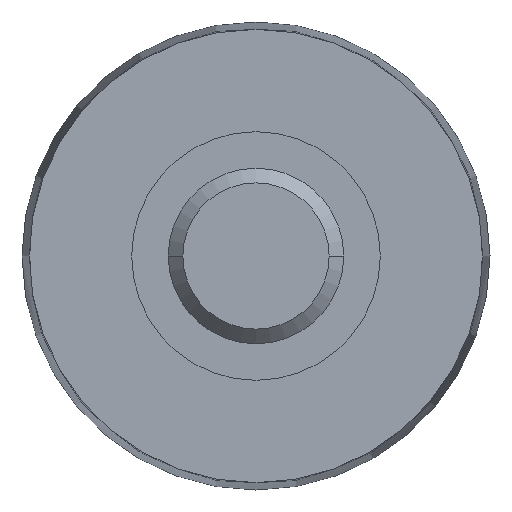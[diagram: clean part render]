
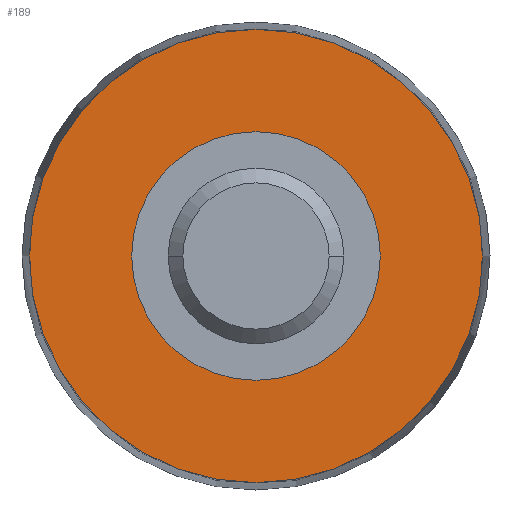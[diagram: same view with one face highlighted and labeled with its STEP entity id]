
A CAD part, left-side view. The second image highlights one B-rep face of the part: STEP entity #189.
In plain terms, the highlighted planar face has unit normal (-1, 0, 0).
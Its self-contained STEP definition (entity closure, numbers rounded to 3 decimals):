
#4 = CARTESIAN_POINT ( 'NONE',  ( -135., 0., 0. ) ) ;
#9 = FACE_OUTER_BOUND ( 'NONE', #155, .T. ) ;
#16 = CIRCLE ( 'NONE', #147, 8.5 ) ;
#26 = FACE_BOUND ( 'NONE', #624, .T. ) ;
#33 = PLANE ( 'NONE',  #459 ) ;
#63 = EDGE_CURVE ( 'NONE', #310, #239, #208, .T. ) ;
#95 = CIRCLE ( 'NONE', #261, 15.5 ) ;
#100 = VERTEX_POINT ( 'NONE', #166 ) ;
#143 = DIRECTION ( 'NONE',  ( -1., 0., 0. ) ) ;
#147 = AXIS2_PLACEMENT_3D ( 'NONE', #375, #495, #496 ) ;
#155 = EDGE_LOOP ( 'NONE', ( #230, #259 ) ) ;
#166 = CARTESIAN_POINT ( 'NONE',  ( -135., -8.5, 0. ) ) ;
#189 = ADVANCED_FACE ( 'NONE', ( #26, #9 ), #33, .F. ) ;
#204 = DIRECTION ( 'NONE',  ( 0., -1., 0. ) ) ;
#208 = CIRCLE ( 'NONE', #467, 15.5 ) ;
#210 = EDGE_CURVE ( 'NONE', #609, #100, #632, .T. ) ;
#217 = EDGE_CURVE ( 'NONE', #239, #310, #95, .T. ) ;
#225 = ORIENTED_EDGE ( 'NONE', *, *, #531, .F. ) ;
#230 = ORIENTED_EDGE ( 'NONE', *, *, #217, .T. ) ;
#239 = VERTEX_POINT ( 'NONE', #618 ) ;
#259 = ORIENTED_EDGE ( 'NONE', *, *, #63, .T. ) ;
#261 = AXIS2_PLACEMENT_3D ( 'NONE', #653, #143, #204 ) ;
#286 = CARTESIAN_POINT ( 'NONE',  ( -135., 8.5, 0. ) ) ;
#291 = AXIS2_PLACEMENT_3D ( 'NONE', #574, #394, #351 ) ;
#292 = CARTESIAN_POINT ( 'NONE',  ( -135., 8.5, 0. ) ) ;
#310 = VERTEX_POINT ( 'NONE', #525 ) ;
#351 = DIRECTION ( 'NONE',  ( 0., -1., 0. ) ) ;
#375 = CARTESIAN_POINT ( 'NONE',  ( -135., 0., 0. ) ) ;
#394 = DIRECTION ( 'NONE',  ( -1., 0., 0. ) ) ;
#407 = DIRECTION ( 'NONE',  ( 1., 0., 0. ) ) ;
#459 = AXIS2_PLACEMENT_3D ( 'NONE', #292, #407, #608 ) ;
#467 = AXIS2_PLACEMENT_3D ( 'NONE', #4, #514, #617 ) ;
#495 = DIRECTION ( 'NONE',  ( -1., 0., 0. ) ) ;
#496 = DIRECTION ( 'NONE',  ( 0., -1., 0. ) ) ;
#514 = DIRECTION ( 'NONE',  ( -1., 0., 0. ) ) ;
#525 = CARTESIAN_POINT ( 'NONE',  ( -135., -15.5, 0. ) ) ;
#531 = EDGE_CURVE ( 'NONE', #100, #609, #16, .T. ) ;
#574 = CARTESIAN_POINT ( 'NONE',  ( -135., 0., 0. ) ) ;
#608 = DIRECTION ( 'NONE',  ( 0., 1., 0. ) ) ;
#609 = VERTEX_POINT ( 'NONE', #286 ) ;
#617 = DIRECTION ( 'NONE',  ( 0., -1., 0. ) ) ;
#618 = CARTESIAN_POINT ( 'NONE',  ( -135., 15.5, 0. ) ) ;
#624 = EDGE_LOOP ( 'NONE', ( #225, #652 ) ) ;
#632 = CIRCLE ( 'NONE', #291, 8.5 ) ;
#652 = ORIENTED_EDGE ( 'NONE', *, *, #210, .F. ) ;
#653 = CARTESIAN_POINT ( 'NONE',  ( -135., 0., 0. ) ) ;
